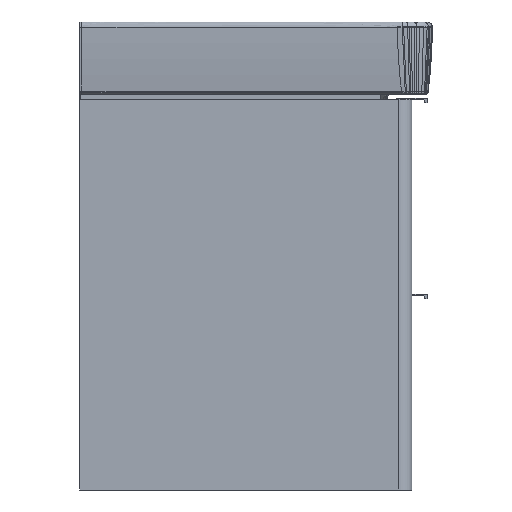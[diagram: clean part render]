
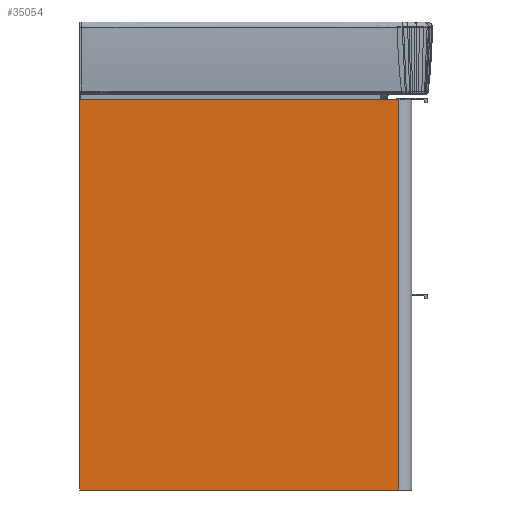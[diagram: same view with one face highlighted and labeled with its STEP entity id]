
A CAD part, left-side view. The second image highlights one B-rep face of the part: STEP entity #35054.
In plain terms, the highlighted planar face has unit normal (-1, 0, 0).
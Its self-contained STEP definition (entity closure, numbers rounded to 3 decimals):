
#8807=FACE_OUTER_BOUND('',#10236,.T.);
#10236=EDGE_LOOP('',(#27051,#27052,#27053,#27054));
#11836=LINE('',#45281,#13495);
#11838=LINE('',#45287,#13497);
#11842=LINE('',#45295,#13501);
#11843=LINE('',#45296,#13502);
#13495=VECTOR('',#39199,10.);
#13497=VECTOR('',#39205,10.);
#13501=VECTOR('',#39211,10.);
#13502=VECTOR('',#39212,10.);
#15144=VERTEX_POINT('',#45278);
#15145=VERTEX_POINT('',#45280);
#15147=VERTEX_POINT('',#45286);
#15150=VERTEX_POINT('',#45294);
#20865=EDGE_CURVE('',#15144,#15145,#11836,.T.);
#20868=EDGE_CURVE('',#15145,#15147,#11838,.T.);
#20872=EDGE_CURVE('',#15150,#15144,#11842,.T.);
#20873=EDGE_CURVE('',#15147,#15150,#11843,.T.);
#27051=ORIENTED_EDGE('',*,*,#20865,.F.);
#27052=ORIENTED_EDGE('',*,*,#20872,.F.);
#27053=ORIENTED_EDGE('',*,*,#20873,.F.);
#27054=ORIENTED_EDGE('',*,*,#20868,.F.);
#34515=PLANE('',#36925);
#35054=ADVANCED_FACE('',(#8807),#34515,.T.);
#36925=AXIS2_PLACEMENT_3D('',#45293,#39209,#39210);
#39199=DIRECTION('',(0.,0.,-1.));
#39205=DIRECTION('',(0.,1.,0.));
#39209=DIRECTION('center_axis',(-1.,0.,0.));
#39210=DIRECTION('ref_axis',(0.,-1.,0.));
#39211=DIRECTION('',(0.,-1.,0.));
#39212=DIRECTION('',(0.,0.,1.));
#45278=CARTESIAN_POINT('',(-260.,-202.,515.));
#45280=CARTESIAN_POINT('',(-260.,-202.,0.));
#45281=CARTESIAN_POINT('',(-260.,-202.,0.));
#45286=CARTESIAN_POINT('',(-260.,219.,0.));
#45287=CARTESIAN_POINT('',(-260.,-219.,0.));
#45293=CARTESIAN_POINT('Origin',(-260.,219.,0.));
#45294=CARTESIAN_POINT('',(-260.,219.,515.));
#45295=CARTESIAN_POINT('',(-260.,-219.,515.));
#45296=CARTESIAN_POINT('',(-260.,219.,0.));
